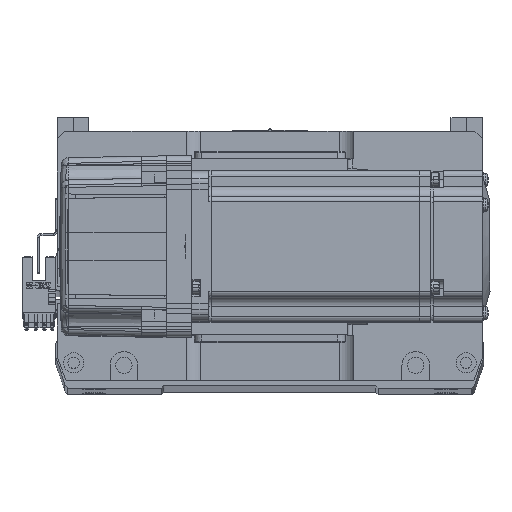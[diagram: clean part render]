
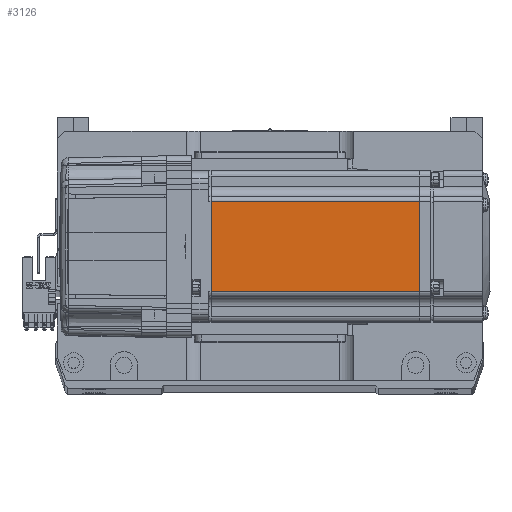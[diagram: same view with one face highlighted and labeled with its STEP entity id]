
A CAD part, top view. The second image highlights one B-rep face of the part: STEP entity #3126.
In plain terms, the highlighted planar face has unit normal (0, 0, 1) as drawn and (0, -1, 0) by its records, which use the part's own axes.
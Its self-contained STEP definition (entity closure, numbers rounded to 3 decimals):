
#2634 = VECTOR ( 'NONE', #54585, 1000. ) ;
#3126 = ADVANCED_FACE ( 'NONE', ( #18975 ), #4976, .T. ) ;
#4976 = PLANE ( 'NONE',  #30295 ) ;
#6337 = CARTESIAN_POINT ( 'NONE',  ( -7.75, -30., -18. ) ) ;
#6477 = CARTESIAN_POINT ( 'NONE',  ( -6.5, -30., -25. ) ) ;
#9018 = DIRECTION ( 'NONE',  ( -1., 0., 0. ) ) ;
#9079 = VERTEX_POINT ( 'NONE', #16343 ) ;
#15949 = EDGE_CURVE ( 'NONE', #9079, #33083, #38957, .T. ) ;
#16306 = DIRECTION ( 'NONE',  ( 0., -1., 0. ) ) ;
#16343 = CARTESIAN_POINT ( 'NONE',  ( -90.45, -30., -18. ) ) ;
#18688 = ORIENTED_EDGE ( 'NONE', *, *, #48369, .T. ) ;
#18975 = FACE_OUTER_BOUND ( 'NONE', #60070, .T. ) ;
#19026 = CARTESIAN_POINT ( 'NONE',  ( -6.5, -30., 18. ) ) ;
#19755 = ORIENTED_EDGE ( 'NONE', *, *, #55797, .T. ) ;
#24420 = VERTEX_POINT ( 'NONE', #59163 ) ;
#25720 = DIRECTION ( 'NONE',  ( 0., 0., -1. ) ) ;
#26130 = ORIENTED_EDGE ( 'NONE', *, *, #63417, .T. ) ;
#28422 = LINE ( 'NONE', #44753, #2634 ) ;
#29802 = LINE ( 'NONE', #44368, #55533 ) ;
#30295 = AXIS2_PLACEMENT_3D ( 'NONE', #6477, #16306, #25720 ) ;
#33083 = VERTEX_POINT ( 'NONE', #6337 ) ;
#38957 = LINE ( 'NONE', #52300, #63118 ) ;
#39768 = DIRECTION ( 'NONE',  ( 0., 0., -1. ) ) ;
#42639 = LINE ( 'NONE', #19026, #55894 ) ;
#44368 = CARTESIAN_POINT ( 'NONE',  ( -90.45, -30., -25. ) ) ;
#44753 = CARTESIAN_POINT ( 'NONE',  ( -7.75, -30., -25. ) ) ;
#47896 = DIRECTION ( 'NONE',  ( 1., 0., 0. ) ) ;
#48369 = EDGE_CURVE ( 'NONE', #61623, #24420, #42639, .T. ) ;
#52300 = CARTESIAN_POINT ( 'NONE',  ( -6.5, -30., -18. ) ) ;
#54585 = DIRECTION ( 'NONE',  ( 0., 0., 1. ) ) ;
#55533 = VECTOR ( 'NONE', #39768, 1000. ) ;
#55797 = EDGE_CURVE ( 'NONE', #24420, #9079, #29802, .T. ) ;
#55894 = VECTOR ( 'NONE', #9018, 1000. ) ;
#59163 = CARTESIAN_POINT ( 'NONE',  ( -90.45, -30., 18. ) ) ;
#59214 = CARTESIAN_POINT ( 'NONE',  ( -7.75, -30., 18. ) ) ;
#60070 = EDGE_LOOP ( 'NONE', ( #26130, #18688, #19755, #64454 ) ) ;
#61623 = VERTEX_POINT ( 'NONE', #59214 ) ;
#63118 = VECTOR ( 'NONE', #47896, 1000. ) ;
#63417 = EDGE_CURVE ( 'NONE', #33083, #61623, #28422, .T. ) ;
#64454 = ORIENTED_EDGE ( 'NONE', *, *, #15949, .T. ) ;
